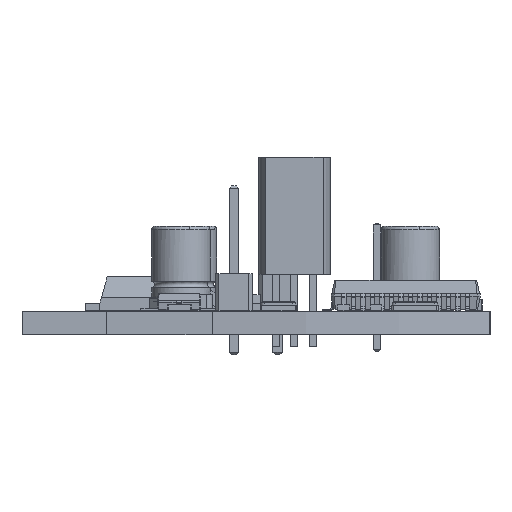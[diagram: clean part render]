
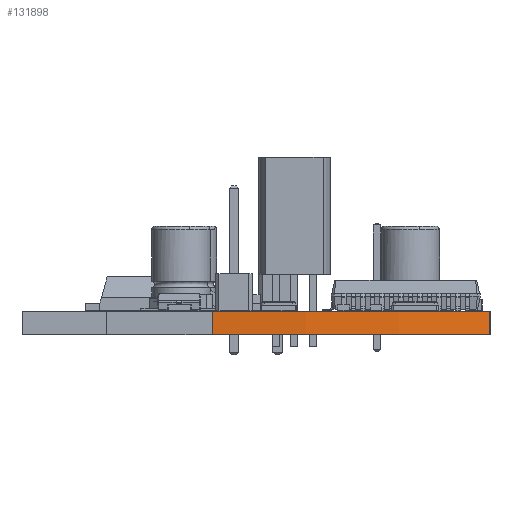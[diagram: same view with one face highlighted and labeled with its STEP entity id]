
A CAD part, front view. The second image highlights one B-rep face of the part: STEP entity #131898.
In plain terms, the highlighted cylindrical face has radius 47.011 mm (diameter 94.021 mm), a partial arc.
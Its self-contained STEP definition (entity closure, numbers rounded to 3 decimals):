
#128594 = PLANE('',#128595);
#128595 = AXIS2_PLACEMENT_3D('',#128596,#128597,#128598);
#128596 = CARTESIAN_POINT('',(156.199,-95.,1.6));
#128597 = DIRECTION('',(0.,0.,1.));
#128598 = DIRECTION('',(1.,0.,-0.));
#128648 = PLANE('',#128649);
#128649 = AXIS2_PLACEMENT_3D('',#128650,#128651,#128652);
#128650 = CARTESIAN_POINT('',(156.199,-95.,0.));
#128651 = DIRECTION('',(0.,0.,1.));
#128652 = DIRECTION('',(1.,0.,-0.));
#128779 = PLANE('',#128780);
#128780 = AXIS2_PLACEMENT_3D('',#128781,#128782,#128783);
#128781 = CARTESIAN_POINT('',(153.208,-114.,0.));
#128782 = DIRECTION('',(1.,0.,-0.));
#128783 = DIRECTION('',(0.,-1.,0.));
#128818 = VERTEX_POINT('',#128819);
#128819 = CARTESIAN_POINT('',(153.208,-141.915,0.));
#128840 = EDGE_CURVE('',#128818,#128841,#128843,.T.);
#128841 = VERTEX_POINT('',#128842);
#128842 = CARTESIAN_POINT('',(172.191,-139.207,0.));
#128843 = SURFACE_CURVE('',#128844,(#128849,#128856),.PCURVE_S1.);
#128844 = CIRCLE('',#128845,47.011);
#128845 = AXIS2_PLACEMENT_3D('',#128846,#128847,#128848);
#128846 = CARTESIAN_POINT('',(156.2,-95.,0.));
#128847 = DIRECTION('',(0.,0.,1.));
#128848 = DIRECTION('',(1.,0.,-0.));
#128849 = PCURVE('',#128648,#128850);
#128850 = DEFINITIONAL_REPRESENTATION('',(#128851),#128855);
#128851 = CIRCLE('',#128852,47.011);
#128852 = AXIS2_PLACEMENT_2D('',#128853,#128854);
#128853 = CARTESIAN_POINT('',(0.001,0.));
#128854 = DIRECTION('',(1.,0.));
#128855 = ( GEOMETRIC_REPRESENTATION_CONTEXT(2) 
PARAMETRIC_REPRESENTATION_CONTEXT() REPRESENTATION_CONTEXT('2D SPACE',''
  ) );
#128856 = PCURVE('',#128857,#128862);
#128857 = CYLINDRICAL_SURFACE('',#128858,47.011);
#128858 = AXIS2_PLACEMENT_3D('',#128859,#128860,#128861);
#128859 = CARTESIAN_POINT('',(156.2,-95.,0.));
#128860 = DIRECTION('',(-0.,-0.,-1.));
#128861 = DIRECTION('',(1.,0.,-0.));
#128862 = DEFINITIONAL_REPRESENTATION('',(#128863),#128867);
#128863 = LINE('',#128864,#128865);
#128864 = CARTESIAN_POINT('',(-0.,0.));
#128865 = VECTOR('',#128866,1.);
#128866 = DIRECTION('',(-1.,0.));
#128867 = ( GEOMETRIC_REPRESENTATION_CONTEXT(2) 
PARAMETRIC_REPRESENTATION_CONTEXT() REPRESENTATION_CONTEXT('2D SPACE',''
  ) );
#128885 = PLANE('',#128886);
#128886 = AXIS2_PLACEMENT_3D('',#128887,#128888,#128889);
#128887 = CARTESIAN_POINT('',(172.191,-139.207,0.));
#128888 = DIRECTION('',(-1.,0.,0.));
#128889 = DIRECTION('',(0.,1.,0.));
#130451 = VERTEX_POINT('',#130452);
#130452 = CARTESIAN_POINT('',(153.208,-141.915,1.6));
#130473 = EDGE_CURVE('',#130451,#130474,#130476,.T.);
#130474 = VERTEX_POINT('',#130475);
#130475 = CARTESIAN_POINT('',(172.191,-139.207,1.6));
#130476 = SURFACE_CURVE('',#130477,(#130482,#130489),.PCURVE_S1.);
#130477 = CIRCLE('',#130478,47.011);
#130478 = AXIS2_PLACEMENT_3D('',#130479,#130480,#130481);
#130479 = CARTESIAN_POINT('',(156.2,-95.,1.6));
#130480 = DIRECTION('',(0.,0.,1.));
#130481 = DIRECTION('',(1.,0.,-0.));
#130482 = PCURVE('',#128594,#130483);
#130483 = DEFINITIONAL_REPRESENTATION('',(#130484),#130488);
#130484 = CIRCLE('',#130485,47.011);
#130485 = AXIS2_PLACEMENT_2D('',#130486,#130487);
#130486 = CARTESIAN_POINT('',(0.001,0.));
#130487 = DIRECTION('',(1.,0.));
#130488 = ( GEOMETRIC_REPRESENTATION_CONTEXT(2) 
PARAMETRIC_REPRESENTATION_CONTEXT() REPRESENTATION_CONTEXT('2D SPACE',''
  ) );
#130489 = PCURVE('',#128857,#130490);
#130490 = DEFINITIONAL_REPRESENTATION('',(#130491),#130495);
#130491 = LINE('',#130492,#130493);
#130492 = CARTESIAN_POINT('',(-0.,-1.6));
#130493 = VECTOR('',#130494,1.);
#130494 = DIRECTION('',(-1.,0.));
#130495 = ( GEOMETRIC_REPRESENTATION_CONTEXT(2) 
PARAMETRIC_REPRESENTATION_CONTEXT() REPRESENTATION_CONTEXT('2D SPACE',''
  ) );
#131850 = EDGE_CURVE('',#128818,#130451,#131851,.T.);
#131851 = SURFACE_CURVE('',#131852,(#131856,#131863),.PCURVE_S1.);
#131852 = LINE('',#131853,#131854);
#131853 = CARTESIAN_POINT('',(153.208,-141.915,0.));
#131854 = VECTOR('',#131855,1.);
#131855 = DIRECTION('',(0.,0.,1.));
#131856 = PCURVE('',#128779,#131857);
#131857 = DEFINITIONAL_REPRESENTATION('',(#131858),#131862);
#131858 = LINE('',#131859,#131860);
#131859 = CARTESIAN_POINT('',(27.915,0.));
#131860 = VECTOR('',#131861,1.);
#131861 = DIRECTION('',(0.,-1.));
#131862 = ( GEOMETRIC_REPRESENTATION_CONTEXT(2) 
PARAMETRIC_REPRESENTATION_CONTEXT() REPRESENTATION_CONTEXT('2D SPACE',''
  ) );
#131863 = PCURVE('',#128857,#131864);
#131864 = DEFINITIONAL_REPRESENTATION('',(#131865),#131869);
#131865 = LINE('',#131866,#131867);
#131866 = CARTESIAN_POINT('',(-4.649,0.));
#131867 = VECTOR('',#131868,1.);
#131868 = DIRECTION('',(-0.,-1.));
#131869 = ( GEOMETRIC_REPRESENTATION_CONTEXT(2) 
PARAMETRIC_REPRESENTATION_CONTEXT() REPRESENTATION_CONTEXT('2D SPACE',''
  ) );
#131898 = ADVANCED_FACE('',(#131899),#128857,.T.);
#131899 = FACE_BOUND('',#131900,.F.);
#131900 = EDGE_LOOP('',(#131901,#131902,#131903,#131924));
#131901 = ORIENTED_EDGE('',*,*,#131850,.T.);
#131902 = ORIENTED_EDGE('',*,*,#130473,.T.);
#131903 = ORIENTED_EDGE('',*,*,#131904,.F.);
#131904 = EDGE_CURVE('',#128841,#130474,#131905,.T.);
#131905 = SURFACE_CURVE('',#131906,(#131910,#131917),.PCURVE_S1.);
#131906 = LINE('',#131907,#131908);
#131907 = CARTESIAN_POINT('',(172.191,-139.207,0.));
#131908 = VECTOR('',#131909,1.);
#131909 = DIRECTION('',(0.,0.,1.));
#131910 = PCURVE('',#128857,#131911);
#131911 = DEFINITIONAL_REPRESENTATION('',(#131912),#131916);
#131912 = LINE('',#131913,#131914);
#131913 = CARTESIAN_POINT('',(-5.059,0.));
#131914 = VECTOR('',#131915,1.);
#131915 = DIRECTION('',(-0.,-1.));
#131916 = ( GEOMETRIC_REPRESENTATION_CONTEXT(2) 
PARAMETRIC_REPRESENTATION_CONTEXT() REPRESENTATION_CONTEXT('2D SPACE',''
  ) );
#131917 = PCURVE('',#128885,#131918);
#131918 = DEFINITIONAL_REPRESENTATION('',(#131919),#131923);
#131919 = LINE('',#131920,#131921);
#131920 = CARTESIAN_POINT('',(0.,0.));
#131921 = VECTOR('',#131922,1.);
#131922 = DIRECTION('',(0.,-1.));
#131923 = ( GEOMETRIC_REPRESENTATION_CONTEXT(2) 
PARAMETRIC_REPRESENTATION_CONTEXT() REPRESENTATION_CONTEXT('2D SPACE',''
  ) );
#131924 = ORIENTED_EDGE('',*,*,#128840,.F.);
